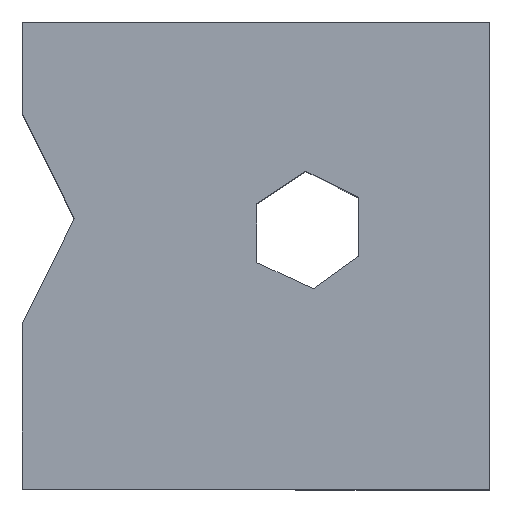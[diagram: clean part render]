
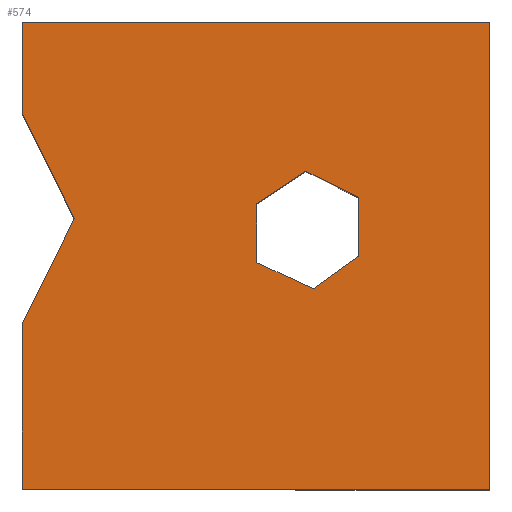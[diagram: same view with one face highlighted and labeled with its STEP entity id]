
A CAD part, top view. The second image highlights one B-rep face of the part: STEP entity #574.
In plain terms, the highlighted planar face has unit normal (0, 0, 1).
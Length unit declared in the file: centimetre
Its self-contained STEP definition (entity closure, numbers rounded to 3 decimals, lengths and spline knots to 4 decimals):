
#1 = EDGE_CURVE ( 'NONE', #266, #641, #337, .T. ) ;
#9 = EDGE_CURVE ( 'NONE', #335, #501, #948, .T. ) ;
#12 = CARTESIAN_POINT ( 'NONE',  ( 0., 1000., 1000. ) ) ;
#14 = CARTESIAN_POINT ( 'NONE',  ( 501.7245, 485.0882, 1000. ) ) ;
#19 = LINE ( 'NONE', #642, #777 ) ;
#23 = CARTESIAN_POINT ( 'NONE',  ( 111.306, 579.0944, 1000. ) ) ;
#26 = DIRECTION ( 'NONE',  ( 0., 0., 1. ) ) ;
#31 = ORIENTED_EDGE ( 'NONE', *, *, #333, .T. ) ;
#38 = DIRECTION ( 'NONE',  ( 1., 0., 0. ) ) ;
#49 = ORIENTED_EDGE ( 'NONE', *, *, #797, .T. ) ;
#69 = VECTOR ( 'NONE', #732, 100. ) ;
#87 = VECTOR ( 'NONE', #722, 100. ) ;
#90 = LINE ( 'NONE', #23, #801 ) ;
#103 = CARTESIAN_POINT ( 'NONE',  ( 622.7698, 429.0322, 1000. ) ) ;
#109 = FACE_BOUND ( 'NONE', #994, .T. ) ;
#117 = DIRECTION ( 'NONE',  ( 1., 0., 0. ) ) ;
#139 = DIRECTION ( 'NONE',  ( -0.833, -0.554, 0. ) ) ;
#152 = ORIENTED_EDGE ( 'NONE', *, *, #219, .F. ) ;
#169 = VECTOR ( 'NONE', #139, 100. ) ;
#200 = LINE ( 'NONE', #680, #169 ) ;
#203 = VERTEX_POINT ( 'NONE', #621 ) ;
#209 = ORIENTED_EDGE ( 'NONE', *, *, #478, .F. ) ;
#211 = DIRECTION ( 'NONE',  ( 0., -1., 0. ) ) ;
#213 = CARTESIAN_POINT ( 'NONE',  ( 1000., 1000., 1000. ) ) ;
#219 = EDGE_CURVE ( 'NONE', #225, #812, #200, .T. ) ;
#225 = VERTEX_POINT ( 'NONE', #300 ) ;
#227 = LINE ( 'NONE', #232, #569 ) ;
#232 = CARTESIAN_POINT ( 'NONE',  ( 0., 1000., 1000. ) ) ;
#234 = AXIS2_PLACEMENT_3D ( 'NONE', #867, #26, #117 ) ;
#256 = CARTESIAN_POINT ( 'NONE',  ( 719.8616, 498.9177, 1000. ) ) ;
#261 = EDGE_LOOP ( 'NONE', ( #209, #885, #391, #825, #31, #49, #353 ) ) ;
#266 = VERTEX_POINT ( 'NONE', #687 ) ;
#272 = CARTESIAN_POINT ( 'NONE',  ( 622.7698, 429.0322, 1000. ) ) ;
#300 = CARTESIAN_POINT ( 'NONE',  ( 606.8008, 680.9152, 1000. ) ) ;
#313 = LINE ( 'NONE', #12, #653 ) ;
#317 = VECTOR ( 'NONE', #38, 100. ) ;
#333 = EDGE_CURVE ( 'NONE', #601, #425, #903, .T. ) ;
#335 = VERTEX_POINT ( 'NONE', #355 ) ;
#337 = LINE ( 'NONE', #633, #87 ) ;
#350 = LINE ( 'NONE', #272, #742 ) ;
#353 = ORIENTED_EDGE ( 'NONE', *, *, #384, .T. ) ;
#355 = CARTESIAN_POINT ( 'NONE',  ( 501.7245, 485.0882, 1000. ) ) ;
#369 = DIRECTION ( 'NONE',  ( -0.896, 0.444, 0. ) ) ;
#380 = VERTEX_POINT ( 'NONE', #708 ) ;
#384 = EDGE_CURVE ( 'NONE', #580, #203, #313, .T. ) ;
#391 = ORIENTED_EDGE ( 'NONE', *, *, #1, .T. ) ;
#411 = DIRECTION ( 'NONE',  ( 0.907, -0.42, 0. ) ) ;
#413 = VECTOR ( 'NONE', #369, 100. ) ;
#421 = ORIENTED_EDGE ( 'NONE', *, *, #638, .F. ) ;
#425 = VERTEX_POINT ( 'NONE', #853 ) ;
#426 = FACE_OUTER_BOUND ( 'NONE', #261, .T. ) ;
#431 = LINE ( 'NONE', #256, #69 ) ;
#441 = LINE ( 'NONE', #968, #413 ) ;
#454 = CARTESIAN_POINT ( 'NONE',  ( 0., 0., 1000. ) ) ;
#455 = VECTOR ( 'NONE', #411, 100. ) ;
#478 = EDGE_CURVE ( 'NONE', #380, #203, #90, .T. ) ;
#487 = EDGE_CURVE ( 'NONE', #266, #380, #944, .T. ) ;
#488 = CARTESIAN_POINT ( 'NONE',  ( 1000., 0., 1000. ) ) ;
#500 = EDGE_CURVE ( 'NONE', #799, #981, #431, .T. ) ;
#501 = VERTEX_POINT ( 'NONE', #103 ) ;
#516 = ORIENTED_EDGE ( 'NONE', *, *, #9, .F. ) ;
#543 = DIRECTION ( 'NONE',  ( -1., 0., 0. ) ) ;
#552 = CARTESIAN_POINT ( 'NONE',  ( 0., 0., 1000. ) ) ;
#566 = ORIENTED_EDGE ( 'NONE', *, *, #750, .F. ) ;
#569 = VECTOR ( 'NONE', #543, 100. ) ;
#574 = ADVANCED_FACE ( 'NONE', ( #109, #426 ), #721, .T. ) ;
#580 = VERTEX_POINT ( 'NONE', #717 ) ;
#601 = VERTEX_POINT ( 'NONE', #488 ) ;
#615 = EDGE_CURVE ( 'NONE', #501, #799, #350, .T. ) ;
#621 = CARTESIAN_POINT ( 'NONE',  ( 0., 803.8784, 1000. ) ) ;
#633 = CARTESIAN_POINT ( 'NONE',  ( 0., 1000., 1000. ) ) ;
#638 = EDGE_CURVE ( 'NONE', #812, #335, #19, .T. ) ;
#641 = VERTEX_POINT ( 'NONE', #454 ) ;
#642 = CARTESIAN_POINT ( 'NONE',  ( 501.7245, 611.0297, 1000. ) ) ;
#653 = VECTOR ( 'NONE', #776, 100. ) ;
#662 = VECTOR ( 'NONE', #873, 100. ) ;
#680 = CARTESIAN_POINT ( 'NONE',  ( 606.8008, 680.9152, 1000. ) ) ;
#687 = CARTESIAN_POINT ( 'NONE',  ( 0., 354.3105, 1000. ) ) ;
#708 = CARTESIAN_POINT ( 'NONE',  ( 111.306, 579.0944, 1000. ) ) ;
#717 = CARTESIAN_POINT ( 'NONE',  ( 0., 1000., 1000. ) ) ;
#721 = PLANE ( 'NONE',  #234 ) ;
#722 = DIRECTION ( 'NONE',  ( 0., -1., 0. ) ) ;
#732 = DIRECTION ( 'NONE',  ( 0., 1., 0. ) ) ;
#742 = VECTOR ( 'NONE', #953, 100. ) ;
#744 = ORIENTED_EDGE ( 'NONE', *, *, #500, .F. ) ;
#746 = CARTESIAN_POINT ( 'NONE',  ( 501.7245, 611.0297, 1000. ) ) ;
#750 = EDGE_CURVE ( 'NONE', #981, #225, #441, .T. ) ;
#776 = DIRECTION ( 'NONE',  ( 0., -1., 0. ) ) ;
#777 = VECTOR ( 'NONE', #211, 100. ) ;
#783 = LINE ( 'NONE', #552, #317 ) ;
#797 = EDGE_CURVE ( 'NONE', #425, #580, #227, .T. ) ;
#799 = VERTEX_POINT ( 'NONE', #818 ) ;
#801 = VECTOR ( 'NONE', #960, 100. ) ;
#812 = VERTEX_POINT ( 'NONE', #746 ) ;
#818 = CARTESIAN_POINT ( 'NONE',  ( 719.8616, 498.9177, 1000. ) ) ;
#825 = ORIENTED_EDGE ( 'NONE', *, *, #879, .T. ) ;
#829 = DIRECTION ( 'NONE',  ( 0., 1., 0. ) ) ;
#853 = CARTESIAN_POINT ( 'NONE',  ( 1000., 1000., 1000. ) ) ;
#859 = CARTESIAN_POINT ( 'NONE',  ( 719.8616, 624.8592, 1000. ) ) ;
#867 = CARTESIAN_POINT ( 'NONE',  ( 0., 0., 1000. ) ) ;
#873 = DIRECTION ( 'NONE',  ( 0.444, 0.896, 0. ) ) ;
#879 = EDGE_CURVE ( 'NONE', #641, #601, #783, .T. ) ;
#885 = ORIENTED_EDGE ( 'NONE', *, *, #487, .F. ) ;
#903 = LINE ( 'NONE', #213, #970 ) ;
#941 = ORIENTED_EDGE ( 'NONE', *, *, #615, .F. ) ;
#944 = LINE ( 'NONE', #947, #662 ) ;
#947 = CARTESIAN_POINT ( 'NONE',  ( 0., 354.3105, 1000. ) ) ;
#948 = LINE ( 'NONE', #14, #455 ) ;
#953 = DIRECTION ( 'NONE',  ( 0.812, 0.584, 0. ) ) ;
#960 = DIRECTION ( 'NONE',  ( -0.444, 0.896, 0. ) ) ;
#968 = CARTESIAN_POINT ( 'NONE',  ( 719.8616, 624.8592, 1000. ) ) ;
#970 = VECTOR ( 'NONE', #829, 100. ) ;
#981 = VERTEX_POINT ( 'NONE', #859 ) ;
#994 = EDGE_LOOP ( 'NONE', ( #744, #941, #516, #421, #152, #566 ) ) ;
